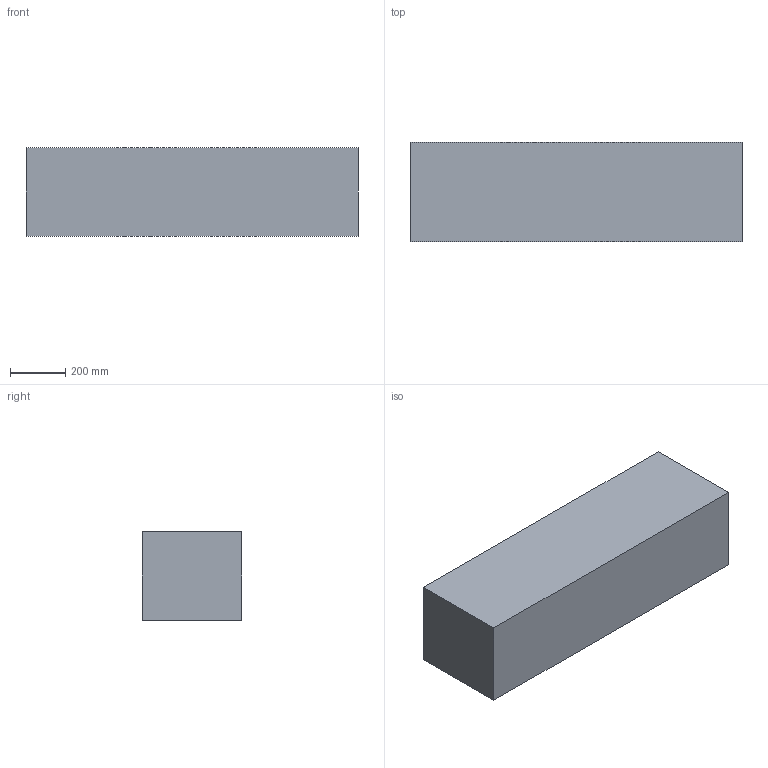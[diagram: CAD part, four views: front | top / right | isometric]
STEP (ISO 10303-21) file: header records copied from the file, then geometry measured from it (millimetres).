
FILE_DESCRIPTION(('FreeCAD Model'),'2;1');
FILE_NAME('Open CASCADE Shape Model','2026-03-31T09:54:01',('FreeCAD'),( 'FreeCAD'),'Open CASCADE STEP processor 7.8','FreeCAD','Unknown');
FILE_SCHEMA(('AUTOMOTIVE_DESIGN { 1 0 10303 214 1 1 1 1 }'));
Length unit declared in the file: millimetre
Products named in the file (1): Open CASCADE STEP translator 7.8 6
Bounding box: 1200 x 360 x 320 mm (x, y, z)
Volume: 138240000 mm3; surface area: 1862400 mm2
Topology: 1 solids, 1 shells, 6 faces, 12 edges, 8 vertices
Faces by surface type: plane 6
Entity records: 166 total; most frequent: CARTESIAN_POINT 27, DIRECTION 26, ORIENTED_EDGE 24, EDGE_CURVE 12, LINE 12, VECTOR 12, VERTEX_POINT 8, AXIS2_PLACEMENT_3D 7
